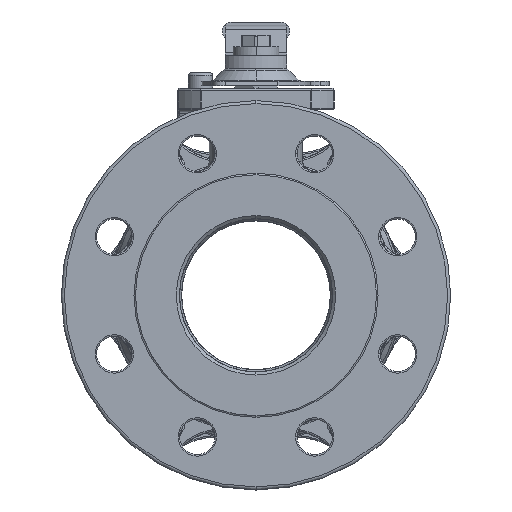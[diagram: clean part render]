
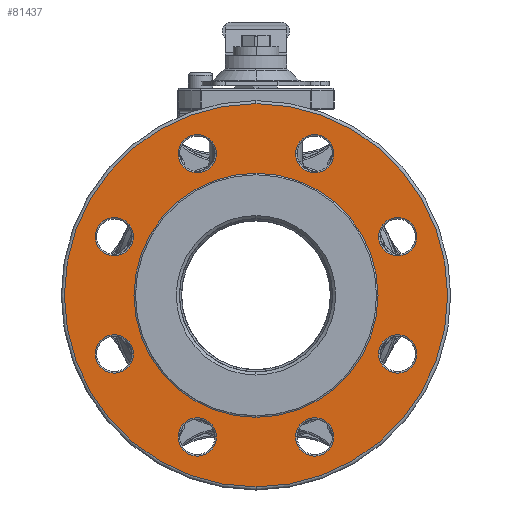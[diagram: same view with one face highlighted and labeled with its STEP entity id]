
A CAD part, left-side view. The second image highlights one B-rep face of the part: STEP entity #81437.
In plain terms, the highlighted planar face has unit normal (-1, 0, 0).
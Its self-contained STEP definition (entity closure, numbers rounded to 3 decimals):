
#15138=CARTESIAN_POINT('',(-133.4,0.,0.));
#15139=DIRECTION('',(1.,0.,0.));
#15140=DIRECTION('',(0.,0.,1.));
#15141=AXIS2_PLACEMENT_3D('',#15138,#15139,#15140);
#15153=CARTESIAN_POINT('',(-133.4,0.,0.));
#15154=DIRECTION('',(1.,0.,0.));
#15155=DIRECTION('',(0.,0.,-1.));
#15156=AXIS2_PLACEMENT_3D('',#15153,#15154,#15155);
#15171=CARTESIAN_POINT('',(-133.4,92.388,38.268));
#15172=DIRECTION('',(1.,0.,0.));
#15173=DIRECTION('',(0.,1.,0.));
#15174=AXIS2_PLACEMENT_3D('',#15171,#15172,#15173);
#15186=CARTESIAN_POINT('',(-133.4,92.388,38.268));
#15187=DIRECTION('',(1.,0.,0.));
#15188=DIRECTION('',(0.,-1.,0.));
#15189=AXIS2_PLACEMENT_3D('',#15186,#15187,#15188);
#15239=CARTESIAN_POINT('',(-133.4,38.268,92.388));
#15240=DIRECTION('',(1.,0.,0.));
#15241=DIRECTION('',(0.,-1.,0.));
#15242=AXIS2_PLACEMENT_3D('',#15239,#15240,#15241);
#15254=CARTESIAN_POINT('',(-133.4,38.268,92.388));
#15255=DIRECTION('',(1.,0.,0.));
#15256=DIRECTION('',(0.,1.,0.));
#15257=AXIS2_PLACEMENT_3D('',#15254,#15255,#15256);
#15307=CARTESIAN_POINT('',(-133.4,-38.268,92.388));
#15308=DIRECTION('',(1.,0.,0.));
#15309=DIRECTION('',(0.,-1.,0.));
#15310=AXIS2_PLACEMENT_3D('',#15307,#15308,#15309);
#15322=CARTESIAN_POINT('',(-133.4,-38.268,92.388));
#15323=DIRECTION('',(1.,0.,0.));
#15324=DIRECTION('',(0.,1.,0.));
#15325=AXIS2_PLACEMENT_3D('',#15322,#15323,#15324);
#15375=CARTESIAN_POINT('',(-133.4,-92.388,38.268));
#15376=DIRECTION('',(1.,0.,0.));
#15377=DIRECTION('',(0.,-1.,0.));
#15378=AXIS2_PLACEMENT_3D('',#15375,#15376,#15377);
#15390=CARTESIAN_POINT('',(-133.4,-92.388,38.268));
#15391=DIRECTION('',(1.,0.,0.));
#15392=DIRECTION('',(0.,1.,0.));
#15393=AXIS2_PLACEMENT_3D('',#15390,#15391,#15392);
#15443=CARTESIAN_POINT('',(-133.4,-92.388,-38.268));
#15444=DIRECTION('',(1.,0.,0.));
#15445=DIRECTION('',(0.,-1.,0.));
#15446=AXIS2_PLACEMENT_3D('',#15443,#15444,#15445);
#15458=CARTESIAN_POINT('',(-133.4,-92.388,-38.268));
#15459=DIRECTION('',(1.,0.,0.));
#15460=DIRECTION('',(0.,1.,0.));
#15461=AXIS2_PLACEMENT_3D('',#15458,#15459,#15460);
#15511=CARTESIAN_POINT('',(-133.4,-38.268,-92.388));
#15512=DIRECTION('',(1.,0.,0.));
#15513=DIRECTION('',(0.,1.,0.));
#15514=AXIS2_PLACEMENT_3D('',#15511,#15512,#15513);
#15526=CARTESIAN_POINT('',(-133.4,-38.268,-92.388));
#15527=DIRECTION('',(1.,0.,0.));
#15528=DIRECTION('',(0.,-1.,0.));
#15529=AXIS2_PLACEMENT_3D('',#15526,#15527,#15528);
#15579=CARTESIAN_POINT('',(-133.4,38.268,-92.388));
#15580=DIRECTION('',(1.,0.,0.));
#15581=DIRECTION('',(0.,1.,0.));
#15582=AXIS2_PLACEMENT_3D('',#15579,#15580,#15581);
#15594=CARTESIAN_POINT('',(-133.4,38.268,-92.388));
#15595=DIRECTION('',(1.,0.,0.));
#15596=DIRECTION('',(0.,-1.,0.));
#15597=AXIS2_PLACEMENT_3D('',#15594,#15595,#15596);
#15647=CARTESIAN_POINT('',(-133.4,92.388,-38.268));
#15648=DIRECTION('',(1.,0.,0.));
#15649=DIRECTION('',(0.,1.,0.));
#15650=AXIS2_PLACEMENT_3D('',#15647,#15648,#15649);
#15662=CARTESIAN_POINT('',(-133.4,92.388,-38.268));
#15663=DIRECTION('',(1.,0.,0.));
#15664=DIRECTION('',(0.,-1.,0.));
#15665=AXIS2_PLACEMENT_3D('',#15662,#15663,#15664);
#15715=CARTESIAN_POINT('',(-133.4,0.,0.));
#15716=DIRECTION('',(-1.,0.,0.));
#15717=DIRECTION('',(0.,0.,1.));
#15718=AXIS2_PLACEMENT_3D('',#15715,#15716,#15717);
#15730=CARTESIAN_POINT('',(-133.4,0.,0.));
#15731=DIRECTION('',(-1.,0.,0.));
#15732=DIRECTION('',(0.,0.,-1.));
#15733=AXIS2_PLACEMENT_3D('',#15730,#15731,#15732);
#46377=CARTESIAN_POINT('',(-133.4,0.,-125.));
#46378=CARTESIAN_POINT('',(-133.4,0.,125.));
#46379=VERTEX_POINT('',#46377);
#46380=VERTEX_POINT('',#46378);
#46389=CARTESIAN_POINT('',(-133.4,104.888,38.268));
#46390=CARTESIAN_POINT('',(-133.4,79.888,38.268));
#46391=VERTEX_POINT('',#46389);
#46392=VERTEX_POINT('',#46390);
#46405=CARTESIAN_POINT('',(-133.4,25.768,92.388));
#46406=CARTESIAN_POINT('',(-133.4,50.768,92.388));
#46407=VERTEX_POINT('',#46405);
#46408=VERTEX_POINT('',#46406);
#46421=CARTESIAN_POINT('',(-133.4,-50.768,92.388));
#46422=CARTESIAN_POINT('',(-133.4,-25.768,92.388));
#46423=VERTEX_POINT('',#46421);
#46424=VERTEX_POINT('',#46422);
#46437=CARTESIAN_POINT('',(-133.4,-104.888,38.268));
#46438=CARTESIAN_POINT('',(-133.4,-79.888,38.268));
#46439=VERTEX_POINT('',#46437);
#46440=VERTEX_POINT('',#46438);
#46453=CARTESIAN_POINT('',(-133.4,-104.888,-38.268));
#46454=CARTESIAN_POINT('',(-133.4,-79.888,-38.268));
#46455=VERTEX_POINT('',#46453);
#46456=VERTEX_POINT('',#46454);
#46477=CARTESIAN_POINT('',(-133.4,-25.768,-92.388));
#46478=CARTESIAN_POINT('',(-133.4,-50.768,-92.388));
#46479=VERTEX_POINT('',#46477);
#46480=VERTEX_POINT('',#46478);
#46493=CARTESIAN_POINT('',(-133.4,50.768,-92.388));
#46494=CARTESIAN_POINT('',(-133.4,25.768,-92.388));
#46495=VERTEX_POINT('',#46493);
#46496=VERTEX_POINT('',#46494);
#46501=CARTESIAN_POINT('',(-133.4,104.888,-38.268));
#46502=CARTESIAN_POINT('',(-133.4,79.888,-38.268));
#46503=VERTEX_POINT('',#46501);
#46504=VERTEX_POINT('',#46502);
#47069=CARTESIAN_POINT('',(-133.4,0.,79.6));
#47070=CARTESIAN_POINT('',(-133.4,0.,-79.6));
#47071=VERTEX_POINT('',#47069);
#47072=VERTEX_POINT('',#47070);
#81374=CARTESIAN_POINT('',(-133.4,0.,0.));
#81375=DIRECTION('',(-1.,0.,0.));
#81376=DIRECTION('',(0.,0.,1.));
#81377=AXIS2_PLACEMENT_3D('',#81374,#81375,#81376);
#81378=PLANE('',#81377);
#81379=ORIENTED_EDGE('',*,*,#81356,.T.);
#81380=ORIENTED_EDGE('',*,*,#81341,.T.);
#81381=EDGE_LOOP('',(#81379,#81380));
#81382=FACE_OUTER_BOUND('',#81381,.F.);
#81384=ORIENTED_EDGE('',*,*,#81383,.F.);
#81386=ORIENTED_EDGE('',*,*,#81385,.F.);
#81387=EDGE_LOOP('',(#81384,#81386));
#81388=FACE_BOUND('',#81387,.F.);
#81390=ORIENTED_EDGE('',*,*,#81389,.F.);
#81392=ORIENTED_EDGE('',*,*,#81391,.F.);
#81393=EDGE_LOOP('',(#81390,#81392));
#81394=FACE_BOUND('',#81393,.F.);
#81396=ORIENTED_EDGE('',*,*,#81395,.F.);
#81398=ORIENTED_EDGE('',*,*,#81397,.F.);
#81399=EDGE_LOOP('',(#81396,#81398));
#81400=FACE_BOUND('',#81399,.F.);
#81402=ORIENTED_EDGE('',*,*,#81401,.F.);
#81404=ORIENTED_EDGE('',*,*,#81403,.F.);
#81405=EDGE_LOOP('',(#81402,#81404));
#81406=FACE_BOUND('',#81405,.F.);
#81408=ORIENTED_EDGE('',*,*,#81407,.F.);
#81410=ORIENTED_EDGE('',*,*,#81409,.F.);
#81411=EDGE_LOOP('',(#81408,#81410));
#81412=FACE_BOUND('',#81411,.F.);
#81414=ORIENTED_EDGE('',*,*,#81413,.F.);
#81416=ORIENTED_EDGE('',*,*,#81415,.F.);
#81417=EDGE_LOOP('',(#81414,#81416));
#81418=FACE_BOUND('',#81417,.F.);
#81420=ORIENTED_EDGE('',*,*,#81419,.F.);
#81422=ORIENTED_EDGE('',*,*,#81421,.F.);
#81423=EDGE_LOOP('',(#81420,#81422));
#81424=FACE_BOUND('',#81423,.F.);
#81426=ORIENTED_EDGE('',*,*,#81425,.F.);
#81428=ORIENTED_EDGE('',*,*,#81427,.F.);
#81429=EDGE_LOOP('',(#81426,#81428));
#81430=FACE_BOUND('',#81429,.F.);
#81432=ORIENTED_EDGE('',*,*,#81431,.T.);
#81434=ORIENTED_EDGE('',*,*,#81433,.T.);
#81435=EDGE_LOOP('',(#81432,#81434));
#81436=FACE_BOUND('',#81435,.F.);
#81437=ADVANCED_FACE('',(#81382,#81388,#81394,#81400,#81406,#81412,#81418,
#81424,#81430,#81436),#81378,.T.);
#15142=CIRCLE('',#15141,125.);
#15157=CIRCLE('',#15156,125.);
#15175=CIRCLE('',#15174,12.5);
#15190=CIRCLE('',#15189,12.5);
#15243=CIRCLE('',#15242,12.5);
#15258=CIRCLE('',#15257,12.5);
#15311=CIRCLE('',#15310,12.5);
#15326=CIRCLE('',#15325,12.5);
#15379=CIRCLE('',#15378,12.5);
#15394=CIRCLE('',#15393,12.5);
#15447=CIRCLE('',#15446,12.5);
#15462=CIRCLE('',#15461,12.5);
#15515=CIRCLE('',#15514,12.5);
#15530=CIRCLE('',#15529,12.5);
#15583=CIRCLE('',#15582,12.5);
#15598=CIRCLE('',#15597,12.5);
#15651=CIRCLE('',#15650,12.5);
#15666=CIRCLE('',#15665,12.5);
#15719=CIRCLE('',#15718,79.6);
#15734=CIRCLE('',#15733,79.6);
#81341=EDGE_CURVE('',#46380,#46379,#15142,.T.);
#81356=EDGE_CURVE('',#46379,#46380,#15157,.T.);
#81383=EDGE_CURVE('',#46391,#46392,#15175,.T.);
#81385=EDGE_CURVE('',#46392,#46391,#15190,.T.);
#81389=EDGE_CURVE('',#46407,#46408,#15243,.T.);
#81391=EDGE_CURVE('',#46408,#46407,#15258,.T.);
#81395=EDGE_CURVE('',#46423,#46424,#15311,.T.);
#81397=EDGE_CURVE('',#46424,#46423,#15326,.T.);
#81401=EDGE_CURVE('',#46439,#46440,#15379,.T.);
#81403=EDGE_CURVE('',#46440,#46439,#15394,.T.);
#81407=EDGE_CURVE('',#46455,#46456,#15447,.T.);
#81409=EDGE_CURVE('',#46456,#46455,#15462,.T.);
#81413=EDGE_CURVE('',#46479,#46480,#15515,.T.);
#81415=EDGE_CURVE('',#46480,#46479,#15530,.T.);
#81419=EDGE_CURVE('',#46495,#46496,#15583,.T.);
#81421=EDGE_CURVE('',#46496,#46495,#15598,.T.);
#81425=EDGE_CURVE('',#46503,#46504,#15651,.T.);
#81427=EDGE_CURVE('',#46504,#46503,#15666,.T.);
#81431=EDGE_CURVE('',#47071,#47072,#15719,.T.);
#81433=EDGE_CURVE('',#47072,#47071,#15734,.T.);
